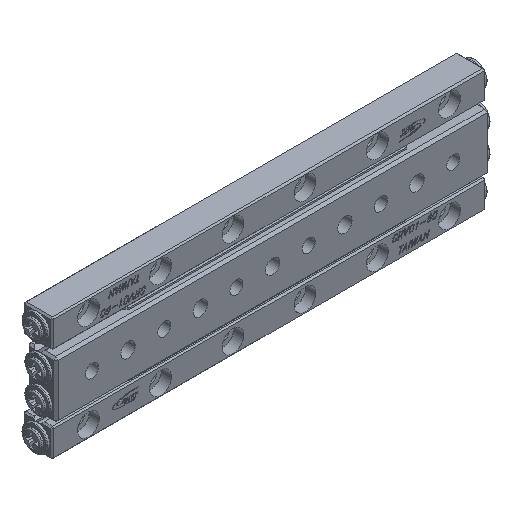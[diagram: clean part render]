
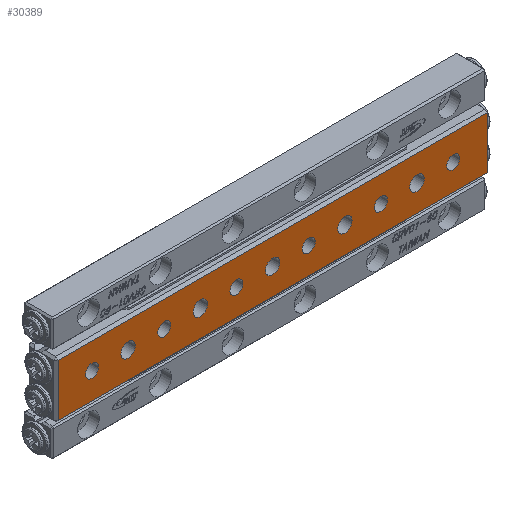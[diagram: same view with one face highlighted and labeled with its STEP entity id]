
A CAD part, isometric view. The second image highlights one B-rep face of the part: STEP entity #30389.
In plain terms, the highlighted planar face has unit normal (0, -1, 0).
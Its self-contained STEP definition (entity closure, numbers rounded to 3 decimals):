
#131 = ORIENTED_EDGE ( 'NONE', *, *, #33698, .T. ) ;
#423 = AXIS2_PLACEMENT_3D ( 'NONE', #30637, #12940, #13180 ) ;
#476 = AXIS2_PLACEMENT_3D ( 'NONE', #14857, #42813, #1076 ) ;
#799 = EDGE_CURVE ( 'NONE', #1678, #1678, #12052, .T. ) ;
#1060 = EDGE_LOOP ( 'NONE', ( #19393, #6761, #38684, #37419 ) ) ;
#1076 = DIRECTION ( 'NONE',  ( 0., 0., 1. ) ) ;
#1200 = EDGE_LOOP ( 'NONE', ( #25391 ) ) ;
#1643 = EDGE_CURVE ( 'NONE', #41296, #41296, #14992, .T. ) ;
#1678 = VERTEX_POINT ( 'NONE', #44786 ) ;
#1969 = AXIS2_PLACEMENT_3D ( 'NONE', #41352, #16919, #37625 ) ;
#2026 = FACE_BOUND ( 'NONE', #16236, .T. ) ;
#2255 = FACE_BOUND ( 'NONE', #2769, .T. ) ;
#2540 = AXIS2_PLACEMENT_3D ( 'NONE', #42471, #10330, #3350 ) ;
#2764 = CARTESIAN_POINT ( 'NONE',  ( -20., 0., 0. ) ) ;
#2769 = EDGE_LOOP ( 'NONE', ( #131 ) ) ;
#2973 = EDGE_CURVE ( 'NONE', #19651, #19651, #38856, .T. ) ;
#3350 = DIRECTION ( 'NONE',  ( 0., 0., 1. ) ) ;
#3544 = DIRECTION ( 'NONE',  ( 0., 1., 0. ) ) ;
#4208 = CARTESIAN_POINT ( 'NONE',  ( -10., 0., 1. ) ) ;
#6347 = EDGE_LOOP ( 'NONE', ( #11413 ) ) ;
#6761 = ORIENTED_EDGE ( 'NONE', *, *, #32538, .T. ) ;
#7918 = VECTOR ( 'NONE', #44028, 1000. ) ;
#8157 = VECTOR ( 'NONE', #22035, 1000. ) ;
#8307 = DIRECTION ( 'NONE',  ( 0., 1., 0. ) ) ;
#8379 = EDGE_LOOP ( 'NONE', ( #8831 ) ) ;
#8831 = ORIENTED_EDGE ( 'NONE', *, *, #1643, .T. ) ;
#9070 = DIRECTION ( 'NONE',  ( 0., 1., 0. ) ) ;
#9461 = EDGE_LOOP ( 'NONE', ( #33689 ) ) ;
#9965 = EDGE_CURVE ( 'NONE', #13569, #13569, #26527, .T. ) ;
#10136 = CIRCLE ( 'NONE', #476, 0.9 ) ;
#10330 = DIRECTION ( 'NONE',  ( 0., 1., 0. ) ) ;
#10946 = CARTESIAN_POINT ( 'NONE',  ( 20., 0., 0. ) ) ;
#11413 = ORIENTED_EDGE ( 'NONE', *, *, #9965, .T. ) ;
#11808 = FACE_OUTER_BOUND ( 'NONE', #1060, .T. ) ;
#11869 = CARTESIAN_POINT ( 'NONE',  ( -30., 0., -3.6 ) ) ;
#11875 = VERTEX_POINT ( 'NONE', #4208 ) ;
#12052 = CIRCLE ( 'NONE', #35129, 1. ) ;
#12313 = ORIENTED_EDGE ( 'NONE', *, *, #37550, .T. ) ;
#12362 = ORIENTED_EDGE ( 'NONE', *, *, #43745, .T. ) ;
#12369 = CIRCLE ( 'NONE', #1969, 1. ) ;
#12611 = AXIS2_PLACEMENT_3D ( 'NONE', #43751, #37214, #26751 ) ;
#12819 = CARTESIAN_POINT ( 'NONE',  ( -15., 0., 0.9 ) ) ;
#12940 = DIRECTION ( 'NONE',  ( 0., 1., 0. ) ) ;
#13180 = DIRECTION ( 'NONE',  ( 0., 0., 1. ) ) ;
#13569 = VERTEX_POINT ( 'NONE', #31505 ) ;
#14249 = AXIS2_PLACEMENT_3D ( 'NONE', #30331, #44768, #22431 ) ;
#14857 = CARTESIAN_POINT ( 'NONE',  ( -15., 0., 0. ) ) ;
#14992 = CIRCLE ( 'NONE', #14249, 1. ) ;
#15159 = DIRECTION ( 'NONE',  ( 1., 0., 0. ) ) ;
#15557 = DIRECTION ( 'NONE',  ( 0., 1., 0. ) ) ;
#15626 = CARTESIAN_POINT ( 'NONE',  ( 5., 0., 0.9 ) ) ;
#15783 = FACE_BOUND ( 'NONE', #28496, .T. ) ;
#16236 = EDGE_LOOP ( 'NONE', ( #12362 ) ) ;
#16490 = DIRECTION ( 'NONE',  ( 0., 0., 1. ) ) ;
#16705 = CIRCLE ( 'NONE', #2540, 0.9 ) ;
#16919 = DIRECTION ( 'NONE',  ( 0., 1., 0. ) ) ;
#17389 = EDGE_CURVE ( 'NONE', #25198, #25198, #39250, .T. ) ;
#17780 = CARTESIAN_POINT ( 'NONE',  ( 0., 0., 0. ) ) ;
#18335 = AXIS2_PLACEMENT_3D ( 'NONE', #26267, #15557, #16490 ) ;
#18355 = CIRCLE ( 'NONE', #20596, 0.9 ) ;
#19233 = EDGE_LOOP ( 'NONE', ( #34744 ) ) ;
#19393 = ORIENTED_EDGE ( 'NONE', *, *, #39629, .T. ) ;
#19505 = LINE ( 'NONE', #31296, #34944 ) ;
#19548 = EDGE_CURVE ( 'NONE', #38697, #22726, #28547, .T. ) ;
#19651 = VERTEX_POINT ( 'NONE', #33850 ) ;
#19996 = FACE_BOUND ( 'NONE', #6347, .T. ) ;
#20596 = AXIS2_PLACEMENT_3D ( 'NONE', #44662, #33968, #30683 ) ;
#20997 = VERTEX_POINT ( 'NONE', #33228 ) ;
#21704 = DIRECTION ( 'NONE',  ( 0., 0., 1. ) ) ;
#22035 = DIRECTION ( 'NONE',  ( -1., 0., 0. ) ) ;
#22395 = VERTEX_POINT ( 'NONE', #33326 ) ;
#22431 = DIRECTION ( 'NONE',  ( 0., 0., 1. ) ) ;
#22534 = EDGE_CURVE ( 'NONE', #20997, #38697, #19505, .T. ) ;
#22550 = PLANE ( 'NONE',  #18335 ) ;
#22726 = VERTEX_POINT ( 'NONE', #32881 ) ;
#22908 = EDGE_LOOP ( 'NONE', ( #12313 ) ) ;
#23602 = EDGE_LOOP ( 'NONE', ( #36229 ) ) ;
#23689 = AXIS2_PLACEMENT_3D ( 'NONE', #17780, #3544, #42447 ) ;
#24145 = ORIENTED_EDGE ( 'NONE', *, *, #17389, .T. ) ;
#25198 = VERTEX_POINT ( 'NONE', #28686 ) ;
#25391 = ORIENTED_EDGE ( 'NONE', *, *, #39223, .T. ) ;
#26008 = CARTESIAN_POINT ( 'NONE',  ( 25., 0., 0. ) ) ;
#26031 = FACE_BOUND ( 'NONE', #23602, .T. ) ;
#26098 = CARTESIAN_POINT ( 'NONE',  ( 15., 0., 0.9 ) ) ;
#26267 = CARTESIAN_POINT ( 'NONE',  ( -30., 0., 3.9 ) ) ;
#26341 = VERTEX_POINT ( 'NONE', #15626 ) ;
#26527 = CIRCLE ( 'NONE', #43638, 0.9 ) ;
#26580 = LINE ( 'NONE', #11869, #43248 ) ;
#26584 = VERTEX_POINT ( 'NONE', #44955 ) ;
#26751 = DIRECTION ( 'NONE',  ( 0., 0., 1. ) ) ;
#27033 = CARTESIAN_POINT ( 'NONE',  ( -29.7, 0., -3.6 ) ) ;
#27982 = CIRCLE ( 'NONE', #423, 0.9 ) ;
#28496 = EDGE_LOOP ( 'NONE', ( #29403 ) ) ;
#28547 = LINE ( 'NONE', #43203, #8157 ) ;
#28686 = CARTESIAN_POINT ( 'NONE',  ( 0., 0., 1. ) ) ;
#28914 = VERTEX_POINT ( 'NONE', #26098 ) ;
#29403 = ORIENTED_EDGE ( 'NONE', *, *, #2973, .T. ) ;
#30271 = DIRECTION ( 'NONE',  ( 0., 0., 1. ) ) ;
#30331 = CARTESIAN_POINT ( 'NONE',  ( 10., 0., 0. ) ) ;
#30389 = ADVANCED_FACE ( 'NONE', ( #11808, #26031, #40227, #40458, #2255, #15783, #19996, #44877, #37432, #2026, #37674, #34190 ), #22550, .F. ) ;
#30637 = CARTESIAN_POINT ( 'NONE',  ( 15., 0., 0. ) ) ;
#30683 = DIRECTION ( 'NONE',  ( 0., 0., 1. ) ) ;
#31131 = EDGE_LOOP ( 'NONE', ( #24145 ) ) ;
#31296 = CARTESIAN_POINT ( 'NONE',  ( 29.7, 0., 3.9 ) ) ;
#31505 = CARTESIAN_POINT ( 'NONE',  ( 25., 0., 0.9 ) ) ;
#32172 = DIRECTION ( 'NONE',  ( 0., 1., 0. ) ) ;
#32538 = EDGE_CURVE ( 'NONE', #45387, #20997, #26580, .T. ) ;
#32881 = CARTESIAN_POINT ( 'NONE',  ( -29.7, 0., 3.6 ) ) ;
#33228 = CARTESIAN_POINT ( 'NONE',  ( 29.7, 0., -3.6 ) ) ;
#33326 = CARTESIAN_POINT ( 'NONE',  ( -25., 0., 0.9 ) ) ;
#33401 = EDGE_CURVE ( 'NONE', #26341, #26341, #18355, .T. ) ;
#33689 = ORIENTED_EDGE ( 'NONE', *, *, #33401, .T. ) ;
#33698 = EDGE_CURVE ( 'NONE', #11875, #11875, #12369, .T. ) ;
#33850 = CARTESIAN_POINT ( 'NONE',  ( -20., 0., 1. ) ) ;
#33968 = DIRECTION ( 'NONE',  ( 0., 1., 0. ) ) ;
#34190 = FACE_BOUND ( 'NONE', #22908, .T. ) ;
#34744 = ORIENTED_EDGE ( 'NONE', *, *, #41508, .T. ) ;
#34944 = VECTOR ( 'NONE', #45730, 1000. ) ;
#35129 = AXIS2_PLACEMENT_3D ( 'NONE', #10946, #32172, #21704 ) ;
#36229 = ORIENTED_EDGE ( 'NONE', *, *, #799, .T. ) ;
#36628 = AXIS2_PLACEMENT_3D ( 'NONE', #2764, #9070, #30271 ) ;
#37214 = DIRECTION ( 'NONE',  ( 0., 1., 0. ) ) ;
#37336 = CARTESIAN_POINT ( 'NONE',  ( 10., 0., 1. ) ) ;
#37419 = ORIENTED_EDGE ( 'NONE', *, *, #19548, .T. ) ;
#37432 = FACE_BOUND ( 'NONE', #9461, .T. ) ;
#37550 = EDGE_CURVE ( 'NONE', #22395, #22395, #41651, .T. ) ;
#37625 = DIRECTION ( 'NONE',  ( 0., 0., 1. ) ) ;
#37674 = FACE_BOUND ( 'NONE', #19233, .T. ) ;
#38684 = ORIENTED_EDGE ( 'NONE', *, *, #22534, .T. ) ;
#38697 = VERTEX_POINT ( 'NONE', #40294 ) ;
#38856 = CIRCLE ( 'NONE', #36628, 1. ) ;
#39223 = EDGE_CURVE ( 'NONE', #28914, #28914, #27982, .T. ) ;
#39250 = CIRCLE ( 'NONE', #23689, 1. ) ;
#39629 = EDGE_CURVE ( 'NONE', #22726, #45387, #40076, .T. ) ;
#39848 = CARTESIAN_POINT ( 'NONE',  ( -29.7, 0., 3.9 ) ) ;
#40076 = LINE ( 'NONE', #39848, #7918 ) ;
#40227 = FACE_BOUND ( 'NONE', #8379, .T. ) ;
#40294 = CARTESIAN_POINT ( 'NONE',  ( 29.7, 0., 3.6 ) ) ;
#40458 = FACE_BOUND ( 'NONE', #31131, .T. ) ;
#40773 = VERTEX_POINT ( 'NONE', #12819 ) ;
#41296 = VERTEX_POINT ( 'NONE', #37336 ) ;
#41352 = CARTESIAN_POINT ( 'NONE',  ( -10., 0., 0. ) ) ;
#41508 = EDGE_CURVE ( 'NONE', #40773, #40773, #10136, .T. ) ;
#41651 = CIRCLE ( 'NONE', #12611, 0.9 ) ;
#42447 = DIRECTION ( 'NONE',  ( 0., 0., 1. ) ) ;
#42471 = CARTESIAN_POINT ( 'NONE',  ( -5., 0., 0. ) ) ;
#42813 = DIRECTION ( 'NONE',  ( 0., 1., 0. ) ) ;
#43203 = CARTESIAN_POINT ( 'NONE',  ( -30., 0., 3.6 ) ) ;
#43248 = VECTOR ( 'NONE', #15159, 1000. ) ;
#43638 = AXIS2_PLACEMENT_3D ( 'NONE', #26008, #8307, #44628 ) ;
#43745 = EDGE_CURVE ( 'NONE', #26584, #26584, #16705, .T. ) ;
#43751 = CARTESIAN_POINT ( 'NONE',  ( -25., 0., 0. ) ) ;
#44028 = DIRECTION ( 'NONE',  ( 0., 0., -1. ) ) ;
#44628 = DIRECTION ( 'NONE',  ( 0., 0., 1. ) ) ;
#44662 = CARTESIAN_POINT ( 'NONE',  ( 5., 0., 0. ) ) ;
#44768 = DIRECTION ( 'NONE',  ( 0., 1., 0. ) ) ;
#44786 = CARTESIAN_POINT ( 'NONE',  ( 20., 0., 1. ) ) ;
#44877 = FACE_BOUND ( 'NONE', #1200, .T. ) ;
#44955 = CARTESIAN_POINT ( 'NONE',  ( -5., 0., 0.9 ) ) ;
#45387 = VERTEX_POINT ( 'NONE', #27033 ) ;
#45730 = DIRECTION ( 'NONE',  ( 0., 0., 1. ) ) ;
